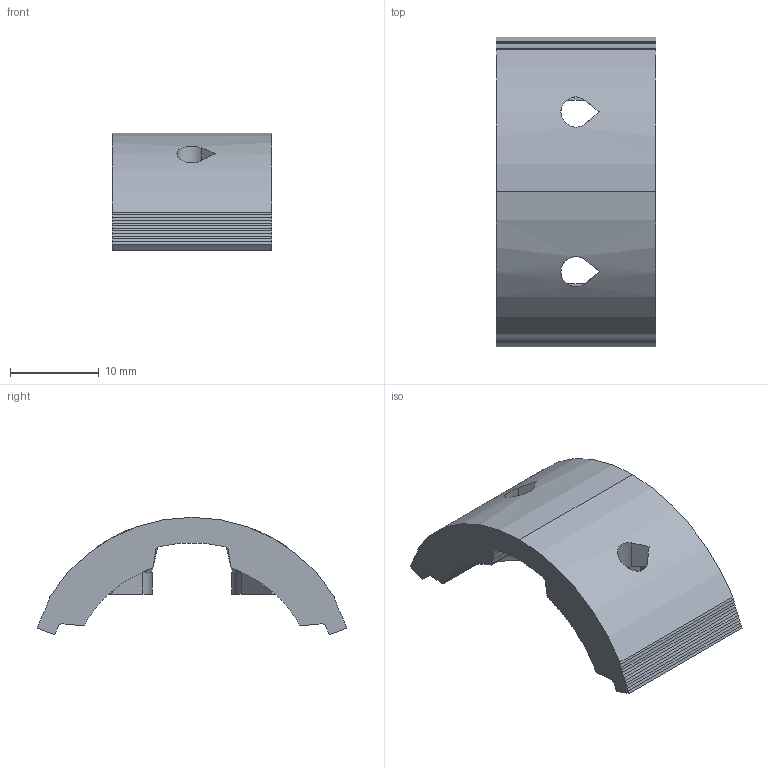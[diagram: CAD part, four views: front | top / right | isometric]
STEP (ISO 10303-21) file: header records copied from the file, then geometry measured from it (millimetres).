
FILE_DESCRIPTION(('SkyG Speed 90B - revision C6B-23 - 2026-10-17','NP1-nut-plate-front'),'2;1');
FILE_NAME('NP1-nut-plate-front_C6B-23','2026-10-17T13:26:41',('Author'),( 'Open CASCADE'),'Open CASCADE STEP processor 7.9','Open CASCADE 7.9' ,'Unknown');
FILE_SCHEMA(('AUTOMOTIVE_DESIGN { 1 0 10303 214 1 1 1 1 }'));
Length unit declared in the file: millimetre
Products named in the file (1): NP1-nut-plate-front C6B-23
Bounding box: 18 x 34.92 x 13.22 mm (x, y, z)
Volume: 2914.7 mm3; surface area: 2241.4 mm2
Topology: 1 solids, 1 shells, 270 faces, 806 edges, 538 vertices
Faces by surface type: plane 260, cylinder 6, bspline 2, cone 2
Entity records: 19856 total; most frequent: CARTESIAN_POINT 4211, DIRECTION 2752, LINE 1928, VECTOR 1928, ORIENTED_EDGE 1612, PCURVE 1612, DEFINITIONAL_REPRESENTATION 1612, EDGE_CURVE 806
